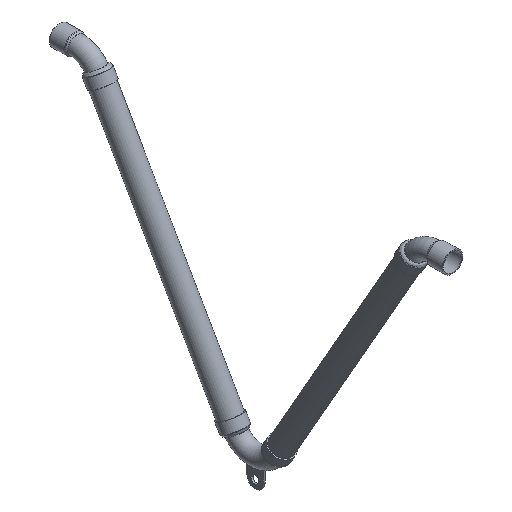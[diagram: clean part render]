
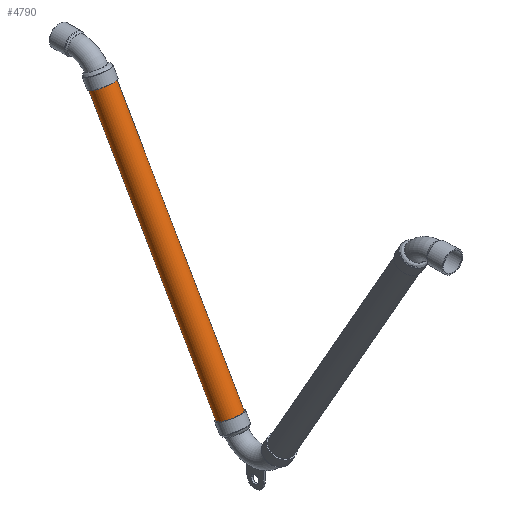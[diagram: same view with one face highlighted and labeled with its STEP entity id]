
A CAD part, isometric view. The second image highlights one B-rep face of the part: STEP entity #4790.
In plain terms, the highlighted cylindrical face has radius 16.815 mm (diameter 33.63 mm), a full revolution.
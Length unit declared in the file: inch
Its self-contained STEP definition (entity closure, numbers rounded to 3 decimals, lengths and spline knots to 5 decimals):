
#4763=CARTESIAN_POINT('',(0.0,0.0,0.0));
#4764=DIRECTION('',(0.0,0.0,1.0));
#4765=DIRECTION('',(-1.0,0.0,0.0));
#4766=AXIS2_PLACEMENT_3D('',#4763,#4764,#4765);
#4767=CYLINDRICAL_SURFACE('',#4766,0.662);
#4768=CARTESIAN_POINT('',(0.662,0.,17.211));
#4769=VERTEX_POINT('',#4768);
#4770=CARTESIAN_POINT('',(0.0,0.0,17.211));
#4771=DIRECTION('',(0.0,0.0,-1.0));
#4772=DIRECTION('',(-1.0,0.0,0.0));
#4773=AXIS2_PLACEMENT_3D('',#4770,#4771,#4772);
#4774=CIRCLE('',#4773,0.662);
#4775=EDGE_CURVE('',#4769,#4769,#4774,.T.);
#4776=ORIENTED_EDGE('',*,*,#4775,.T.);
#4777=EDGE_LOOP('',(#4776));
#4778=FACE_OUTER_BOUND('',#4777,.T.);
#4779=CARTESIAN_POINT('',(0.662,0.,0.0));
#4780=VERTEX_POINT('',#4779);
#4781=CARTESIAN_POINT('',(0.0,0.0,0.0));
#4782=DIRECTION('',(0.0,0.0,-1.0));
#4783=DIRECTION('',(-1.0,0.0,0.0));
#4784=AXIS2_PLACEMENT_3D('',#4781,#4782,#4783);
#4785=CIRCLE('',#4784,0.662);
#4786=EDGE_CURVE('',#4780,#4780,#4785,.T.);
#4787=ORIENTED_EDGE('',*,*,#4786,.F.);
#4788=EDGE_LOOP('',(#4787));
#4789=FACE_BOUND('',#4788,.T.);
#4790=ADVANCED_FACE('',(#4778,#4789),#4767,.T.);
